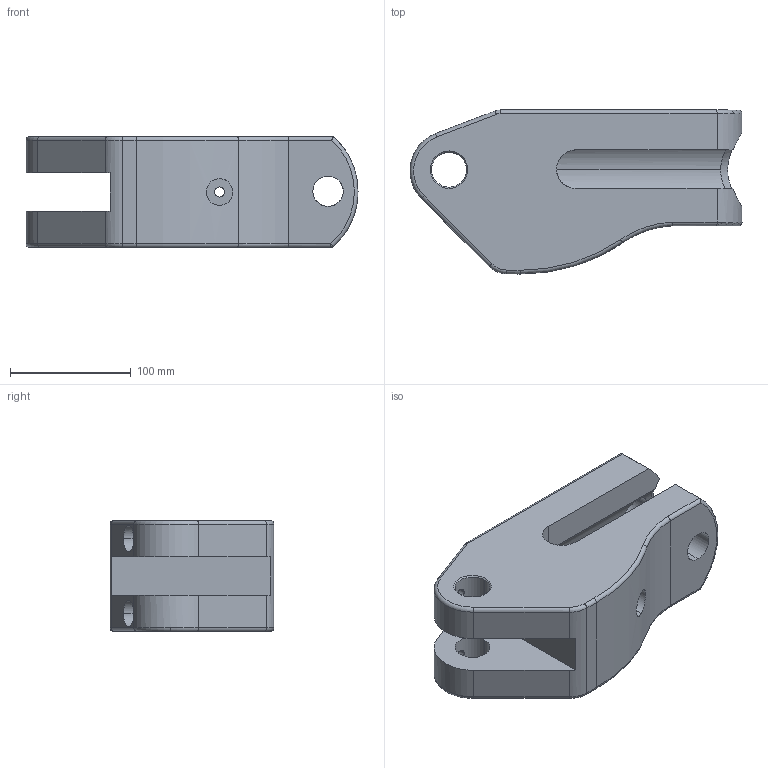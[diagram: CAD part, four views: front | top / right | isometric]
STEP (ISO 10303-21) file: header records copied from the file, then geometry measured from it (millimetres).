
FILE_DESCRIPTION (( 'STEP AP203' ), '1' );
FILE_NAME ('YYDK-500-0024 翻转连接块(500T)右侧.STEP', '2026-03-14T08:09:08', ( 'Windows 用户' ), ( '' ), 'SwSTEP 2.0', 'SolidWorks 2020', '' );
FILE_SCHEMA (( 'CONFIG_CONTROL_DESIGN' ));
Length unit declared in the file: millimetre
Products named in the file (1): YYDK-500-0024 楹蛌蟀諉輸(500T)衵耜
Bounding box: 275.29 x 135.88 x 91.98 mm (x, y, z)
Volume: 1836255.1 mm3; surface area: 164572.6 mm2
Topology: 1 solids, 1 shells, 88 faces, 214 edges, 132 vertices
Faces by surface type: cylinder 46, plane 21, torus 11, cone 4, bspline 4, sphere 2
Entity records: 4817 total; most frequent: CARTESIAN_POINT 2672, DIRECTION 435, ORIENTED_EDGE 426, EDGE_CURVE 213, AXIS2_PLACEMENT_3D 174, VERTEX_POINT 132, EDGE_LOOP 109, CIRCLE 89
